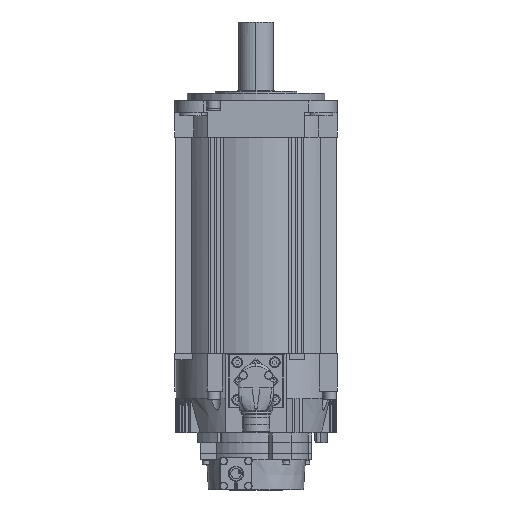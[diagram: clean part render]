
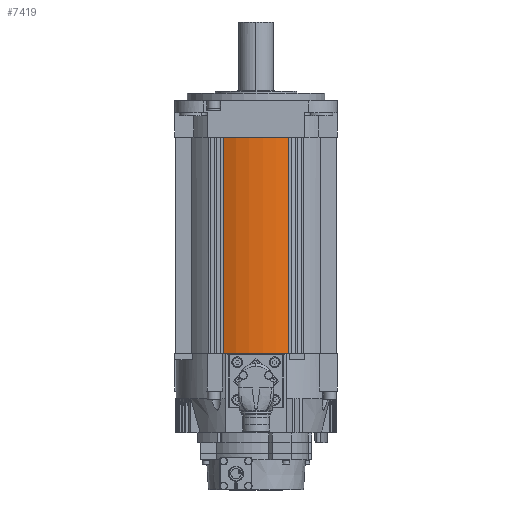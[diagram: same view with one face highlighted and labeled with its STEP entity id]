
A CAD part, front view. The second image highlights one B-rep face of the part: STEP entity #7419.
In plain terms, the highlighted cylindrical face has radius 64.3 mm (diameter 128.6 mm), a partial arc.
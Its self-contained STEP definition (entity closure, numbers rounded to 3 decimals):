
#7110 = VERTEX_POINT ( 'NONE', #19220 ) ;
#7112 = EDGE_CURVE ( 'NONE', #7110, #7113, #19219, .T. ) ;
#7113 = VERTEX_POINT ( 'NONE', #19214 ) ;
#7397 = ORIENTED_EDGE ( 'NONE', *, *, #7398, .F. ) ;
#7398 = EDGE_CURVE ( 'NONE', #7425, #7110, #20130, .T. ) ;
#7399 = ORIENTED_EDGE ( 'NONE', *, *, #7400, .F. ) ;
#7400 = EDGE_CURVE ( 'NONE', #7423, #7425, #20125, .T. ) ;
#7419 = ADVANCED_FACE ( 'NONE', ( #20187 ), #20171, .T. ) ;
#7420 = EDGE_LOOP ( 'NONE', ( #7421, #7424, #7397, #7399 ) ) ;
#7421 = ORIENTED_EDGE ( 'NONE', *, *, #7422, .F. ) ;
#7422 = EDGE_CURVE ( 'NONE', #7113, #7423, #20223, .T. ) ;
#7423 = VERTEX_POINT ( 'NONE', #20219 ) ;
#7424 = ORIENTED_EDGE ( 'NONE', *, *, #7112, .F. ) ;
#7425 = VERTEX_POINT ( 'NONE', #20218 ) ;
#19214 = CARTESIAN_POINT ( 'NONE',  ( -26.3, -58.675, -202. ) ) ;
#19215 = DIRECTION ( 'NONE',  ( 1., 0., 0. ) ) ;
#19216 = DIRECTION ( 'NONE',  ( 0., 0., -1. ) ) ;
#19217 = CARTESIAN_POINT ( 'NONE',  ( 0., 0., -202. ) ) ;
#19218 = AXIS2_PLACEMENT_3D ( 'NONE', #19217, #19216, #19215 ) ;
#19219 = CIRCLE ( 'NONE', #19218, 64.3 ) ;
#19220 = CARTESIAN_POINT ( 'NONE',  ( 26.3, -58.675, -202. ) ) ;
#20121 = DIRECTION ( 'NONE',  ( 1., 0., 0. ) ) ;
#20122 = DIRECTION ( 'NONE',  ( 0., 0., 1. ) ) ;
#20123 = CARTESIAN_POINT ( 'NONE',  ( 0., 0., -29. ) ) ;
#20124 = AXIS2_PLACEMENT_3D ( 'NONE', #20123, #20122, #20121 ) ;
#20125 = CIRCLE ( 'NONE', #20124, 64.3 ) ;
#20127 = DIRECTION ( 'NONE',  ( 0., 0., -1. ) ) ;
#20128 = VECTOR ( 'NONE', #20127, 1000. ) ;
#20129 = CARTESIAN_POINT ( 'NONE',  ( 26.3, -58.675, -383.868 ) ) ;
#20130 = LINE ( 'NONE', #20129, #20128 ) ;
#20168 = DIRECTION ( 'NONE',  ( 1., 0., 0. ) ) ;
#20169 = DIRECTION ( 'NONE',  ( 0., 0., 1. ) ) ;
#20170 = AXIS2_PLACEMENT_3D ( 'NONE', #20172, #20169, #20168 ) ;
#20171 = CYLINDRICAL_SURFACE ( 'NONE', #20170, 64.3 ) ;
#20172 = CARTESIAN_POINT ( 'NONE',  ( 0., 0., -383.868 ) ) ;
#20187 = FACE_OUTER_BOUND ( 'NONE', #7420, .T. ) ;
#20218 = CARTESIAN_POINT ( 'NONE',  ( 26.3, -58.675, -29. ) ) ;
#20219 = CARTESIAN_POINT ( 'NONE',  ( -26.3, -58.675, -29. ) ) ;
#20220 = DIRECTION ( 'NONE',  ( 0., 0., 1. ) ) ;
#20221 = VECTOR ( 'NONE', #20220, 1000. ) ;
#20222 = CARTESIAN_POINT ( 'NONE',  ( -26.3, -58.675, -383.868 ) ) ;
#20223 = LINE ( 'NONE', #20222, #20221 ) ;
